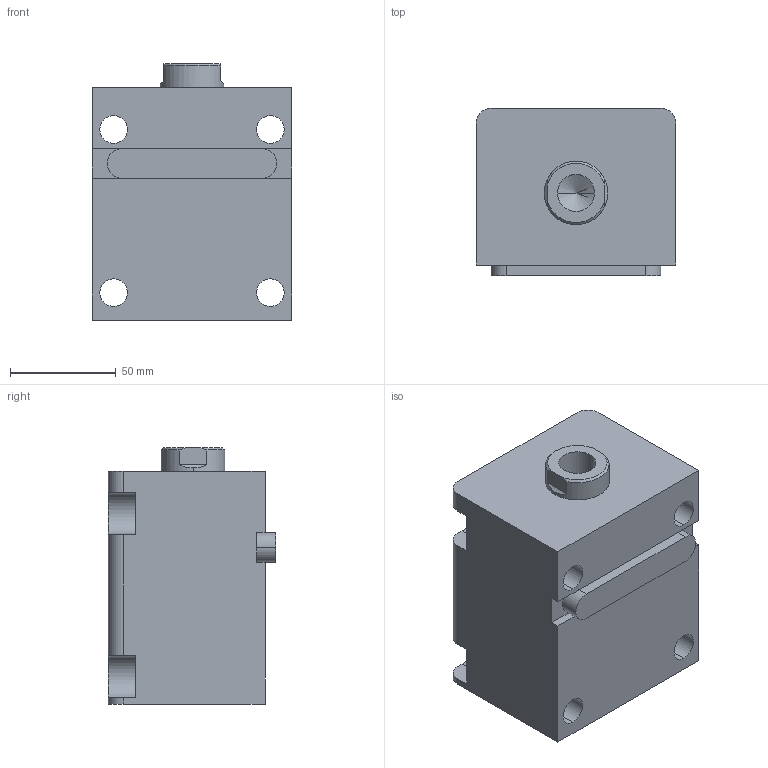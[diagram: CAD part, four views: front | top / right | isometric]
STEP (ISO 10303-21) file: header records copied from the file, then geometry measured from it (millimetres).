
FILE_DESCRIPTION (( 'STEP AP203' ), '1' );
FILE_NAME ('HTB-LA50-50N.STEP', '2019-10-09T07:09:54', ( '微软用户' ), ( '微软中国' ), 'SwSTEP 2.0', 'SolidWorks 2012', '' );
FILE_SCHEMA (( 'CONFIG_CONTROL_DESIGN' ));
Length unit declared in the file: millimetre
Products named in the file (4): HTB-LA50-50掛极; HTB-LA50-50N活塞杆; HTB-LA50-50N; HTB-LA50-瑩
Assembly tree (3 placements, depth 2):
  HTB-LA50-50N
    HTB-LA50-50掛极
    HTB-LA50-50N活塞杆
    HTB-LA50-瑩
Bounding box: 94 x 79 x 121 mm (x, y, z)
Volume: 652806.5 mm3; surface area: 99364.4 mm2
Topology: 3 solids, 3 shells, 86 faces, 213 edges, 139 vertices
Faces by surface type: plane 39, cylinder 35, cone 8, torus 4
Entity records: 3001 total; most frequent: DIRECTION 475, CARTESIAN_POINT 470, ORIENTED_EDGE 422, EDGE_CURVE 211, AXIS2_PLACEMENT_3D 180, VERTEX_POINT 139, LINE 115, VECTOR 115
